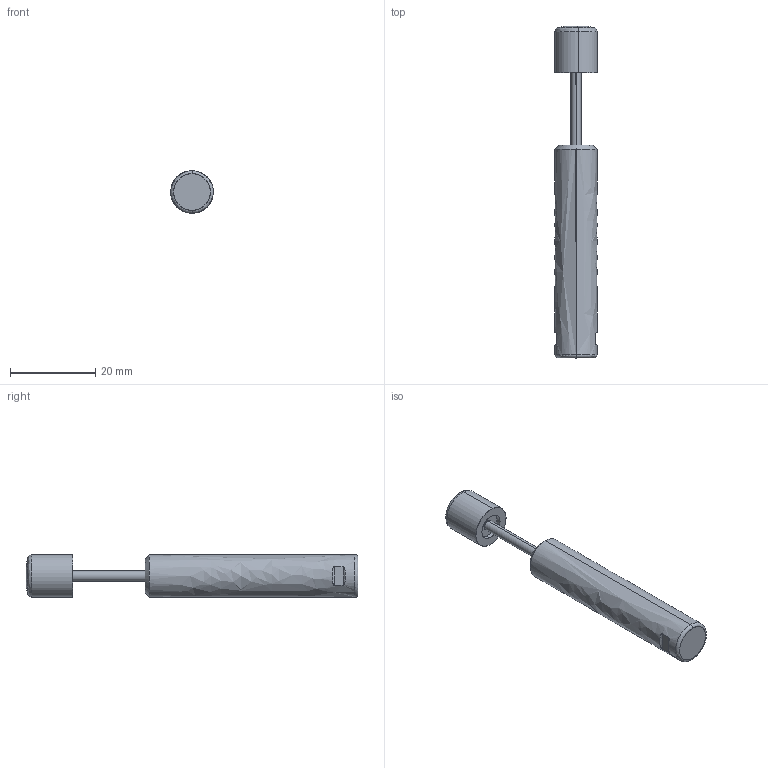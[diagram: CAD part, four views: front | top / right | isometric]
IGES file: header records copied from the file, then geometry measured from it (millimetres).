
Start section: SolidWorks IGES file using analytic representation for surfaces
Bounding box: 10 x 78 x 10 mm (x, y, z)
Surface area: 2661.4 mm2 (no closed solid volume)
Topology: 0 solids, 0 shells, 33 faces, 488 edges, 488 vertices
Faces by surface type: revolution 20, bspline 13
